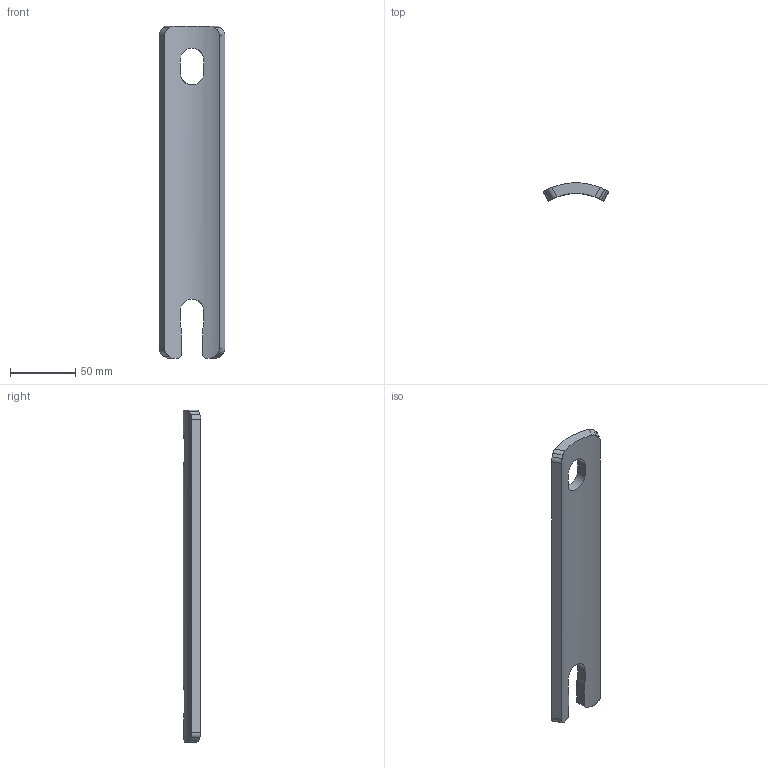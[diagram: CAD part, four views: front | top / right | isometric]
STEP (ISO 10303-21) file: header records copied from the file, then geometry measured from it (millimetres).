
FILE_DESCRIPTION(/* description */ ('Нижний валик. Труба 100х8'),/* implementation_level */ '2;1');
FILE_NAME(/* name */ 'D:\Work\ОП ДЕЛО\Деложим 110 изм 3\Деталировка\1. Нижний валик\3D Model. Нижний валик. Труба 100х8.stp',/* time_stamp */ '2025-04-16T12:39:13+04:00',/* author */ ('Администратор'),/* organization */ (''),/* preprocessor_version */ 'ST-DEVELOPER v17.2',/* originating_system */ 'Autodesk Inventor 2019',/* authorisation */ '');
FILE_SCHEMA (('CONFIG_CONTROL_DESIGN'));
Length unit declared in the file: millimetre
Products named in the file (1): ПД-110.01.00.002
Bounding box: 50 x 13.63 x 254 mm (x, y, z)
Volume: 87967.8 mm3; surface area: 28003.5 mm2
Topology: 1 solids, 1 shells, 34 faces, 99 edges, 67 vertices
Faces by surface type: cylinder 17, plane 17
Entity records: 1313 total; most frequent: CARTESIAN_POINT 410, ORIENTED_EDGE 198, DIRECTION 154, EDGE_CURVE 99, VERTEX_POINT 67, AXIS2_PLACEMENT_3D 53, LINE 48, VECTOR 48
